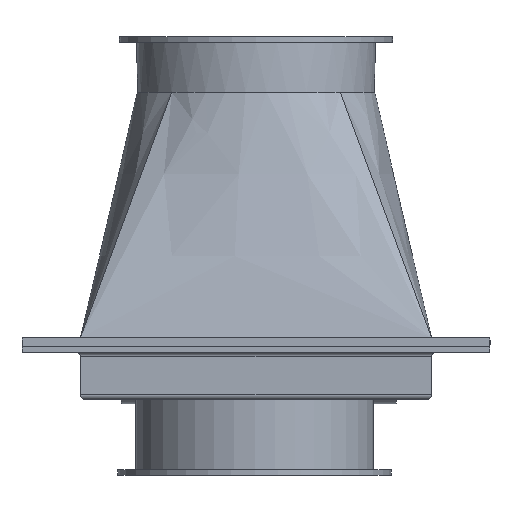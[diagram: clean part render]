
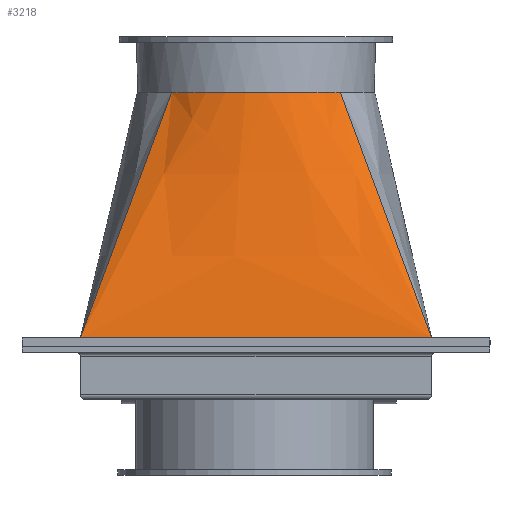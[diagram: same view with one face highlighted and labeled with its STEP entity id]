
A CAD part, left-side view. The second image highlights one B-rep face of the part: STEP entity #3218.
In plain terms, the highlighted free-form (B-spline) face has degree [3, 3] with [7, 4] control points.
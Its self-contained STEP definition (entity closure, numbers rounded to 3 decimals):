
#2519=CARTESIAN_POINT('',(0.0,0.0,0.0));
#2520=VERTEX_POINT('',#2519);
#2529=CARTESIAN_POINT('',(0.,120.0,0.0));
#2530=VERTEX_POINT('',#2529);
#2531=CARTESIAN_POINT('',(0.,120.0,0.0));
#2532=DIRECTION('',(0.0,-1.0,0.0));
#2533=VECTOR('',#2532,120.0);
#2534=LINE('',#2531,#2533);
#2535=EDGE_CURVE('',#2530,#2520,#2534,.T.);
#3150=CARTESIAN_POINT('',(-31.185,31.185,-84.0));
#3151=VERTEX_POINT('',#3150);
#3159=CARTESIAN_POINT('',(0.0,0.0,0.0));
#3160=CARTESIAN_POINT('',(-10.395,10.395,-28.0));
#3161=CARTESIAN_POINT('',(-20.79,20.79,-56.));
#3162=CARTESIAN_POINT('',(-31.185,31.185,-84.0));
#3163=QUASI_UNIFORM_CURVE('',3,(#3159,#3160,#3161,#3162),.UNSPECIFIED.,.F.,.U.);
#3164=EDGE_CURVE('',#2520,#3151,#3163,.T.);
#3169=CARTESIAN_POINT('',(0.0,0.0,0.0));
#3170=CARTESIAN_POINT('',(0.,11.429,0.0));
#3171=CARTESIAN_POINT('',(0.,34.286,0.0));
#3172=CARTESIAN_POINT('',(0.,68.571,0.0));
#3173=CARTESIAN_POINT('',(0.,97.143,0.0));
#3174=CARTESIAN_POINT('',(0.,114.286,0.0));
#3175=CARTESIAN_POINT('',(0.,120.0,0.0));
#3176=CARTESIAN_POINT('',(-10.395,10.395,-28.0));
#3177=CARTESIAN_POINT('',(-8.957,19.45,-28.));
#3178=CARTESIAN_POINT('',(-6.741,38.218,-28.));
#3179=CARTESIAN_POINT('',(-6.04,67.287,-28.));
#3180=CARTESIAN_POINT('',(-7.761,91.252,-28.));
#3181=CARTESIAN_POINT('',(-9.678,105.076,-28.));
#3182=CARTESIAN_POINT('',(-10.395,109.605,-28.0));
#3183=CARTESIAN_POINT('',(-20.79,20.79,-56.));
#3184=CARTESIAN_POINT('',(-17.918,27.475,-56.));
#3185=CARTESIAN_POINT('',(-13.483,42.15,-56.));
#3186=CARTESIAN_POINT('',(-12.081,66.004,-56.));
#3187=CARTESIAN_POINT('',(-15.523,85.36,-56.));
#3188=CARTESIAN_POINT('',(-19.353,95.869,-56.));
#3189=CARTESIAN_POINT('',(-20.79,99.21,-56.));
#3190=CARTESIAN_POINT('',(-31.185,31.185,-84.0));
#3191=CARTESIAN_POINT('',(-26.875,35.496,-84.0));
#3192=CARTESIAN_POINT('',(-20.224,46.082,-84.));
#3193=CARTESIAN_POINT('',(-18.121,64.72,-84.));
#3194=CARTESIAN_POINT('',(-23.285,79.47,-84.0));
#3195=CARTESIAN_POINT('',(-29.03,86.659,-84.0));
#3196=CARTESIAN_POINT('',(-31.185,88.815,-84.0));
#3197=B_SPLINE_SURFACE_WITH_KNOTS('',3,3,((#3169,#3176,#3183,#3190),(#3170,#3177,#3184,#3191),(#3171,#3178,#3185,#3192),(#3172,#3179,#3186,#3193),(#3173,#3180,#3187,#3194),(#3174,#3181,#3188,#3195),(#3175,#3182,#3189,#3196)),.UNSPECIFIED.,.F.,.F.,.U.,(4,1,1,1,4),(4,4),(0.0,0.286,0.571,0.857,1.0),(0.0,1.0),.UNSPECIFIED.);
#3198=ORIENTED_EDGE('',*,*,#2535,.T.);
#3199=ORIENTED_EDGE('',*,*,#3164,.T.);
#3200=CARTESIAN_POINT('',(-31.185,88.815,-84.0));
#3201=VERTEX_POINT('',#3200);
#3202=CARTESIAN_POINT('',(-60.,60.,-84.0));
#3203=DIRECTION('',(0.0,0.0,-1.0));
#3204=DIRECTION('',(1.0,0.0,0.0));
#3205=AXIS2_PLACEMENT_3D('',#3202,#3203,#3204);
#3206=CIRCLE('',#3205,40.75);
#3207=EDGE_CURVE('',#3201,#3151,#3206,.T.);
#3208=ORIENTED_EDGE('',*,*,#3207,.F.);
#3209=CARTESIAN_POINT('',(0.,120.0,0.0));
#3210=CARTESIAN_POINT('',(-10.395,109.605,-28.));
#3211=CARTESIAN_POINT('',(-20.79,99.21,-56.0));
#3212=CARTESIAN_POINT('',(-31.185,88.815,-84.0));
#3213=QUASI_UNIFORM_CURVE('',3,(#3209,#3210,#3211,#3212),.UNSPECIFIED.,.F.,.U.);
#3214=EDGE_CURVE('',#2530,#3201,#3213,.T.);
#3215=ORIENTED_EDGE('',*,*,#3214,.F.);
#3216=EDGE_LOOP('',(#3198,#3199,#3208,#3215));
#3217=FACE_OUTER_BOUND('',#3216,.T.);
#3218=ADVANCED_FACE('',(#3217),#3197,.F.);
